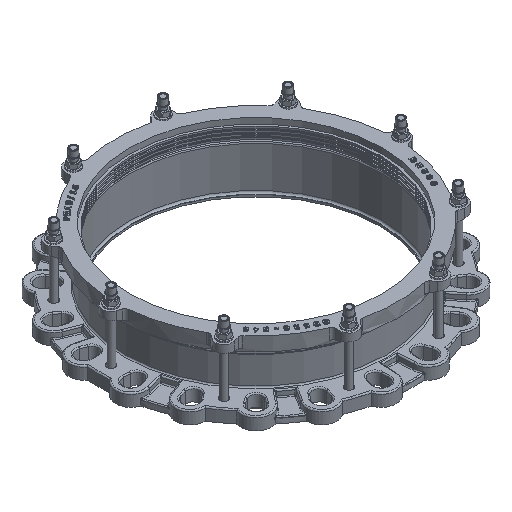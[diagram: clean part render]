
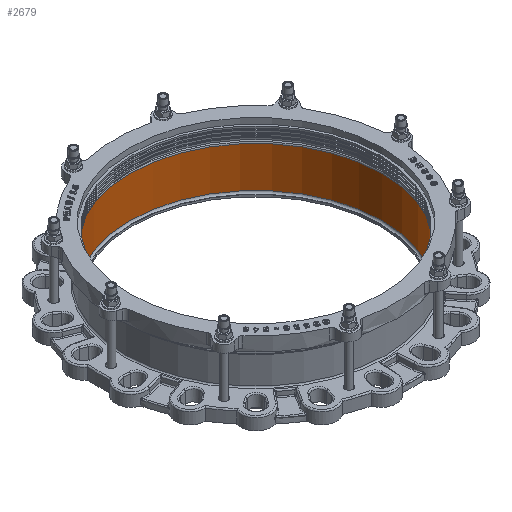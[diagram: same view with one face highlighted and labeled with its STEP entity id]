
A CAD part, isometric view. The second image highlights one B-rep face of the part: STEP entity #2679.
In plain terms, the highlighted cylindrical face has radius 273 mm (diameter 546 mm), a full revolution.
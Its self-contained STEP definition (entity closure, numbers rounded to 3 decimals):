
#2679=ADVANCED_FACE('',(#19396,#19398),#19400,.F.);
#19396=FACE_OUTER_BOUND('',#19397,.T.);
#19397=EDGE_LOOP('',(#27900));
#19398=FACE_OUTER_BOUND('',#19399,.T.);
#19399=EDGE_LOOP('',(#27901));
#19400=CYLINDRICAL_SURFACE('',#19401,273.);
#19401=AXIS2_PLACEMENT_3D('',#19402,#19403,#19404);
#19402=CARTESIAN_POINT('',(0.,0.,4.));
#19403=DIRECTION('',(0.,0.,1.));
#19404=DIRECTION('',(-1.,0.,0.));
#27900=ORIENTED_EDGE('',*,*,#34456,.F.);
#27901=ORIENTED_EDGE('',*,*,#34455,.T.);
#34455=EDGE_CURVE('',#39323,#39323,#39324,.F.);
#34456=EDGE_CURVE('',#39325,#39325,#39326,.T.);
#39323=VERTEX_POINT('',#57395);
#39324=CIRCLE('',#57396,273.);
#39325=VERTEX_POINT('',#57400);
#39326=CIRCLE('',#57401,273.);
#57395=CARTESIAN_POINT('',(0.,273.,8.));
#57396=AXIS2_PLACEMENT_3D('',#57397,#57398,#57399);
#57397=CARTESIAN_POINT('',(0.,0.,8.));
#57398=DIRECTION('',(0.,0.,1.));
#57399=DIRECTION('',(0.,1.,0.));
#57400=CARTESIAN_POINT('',(0.,273.,96.));
#57401=AXIS2_PLACEMENT_3D('',#57402,#57403,#57404);
#57402=CARTESIAN_POINT('',(0.,0.,96.));
#57403=DIRECTION('',(0.,0.,-1.));
#57404=DIRECTION('',(0.,1.,0.));
